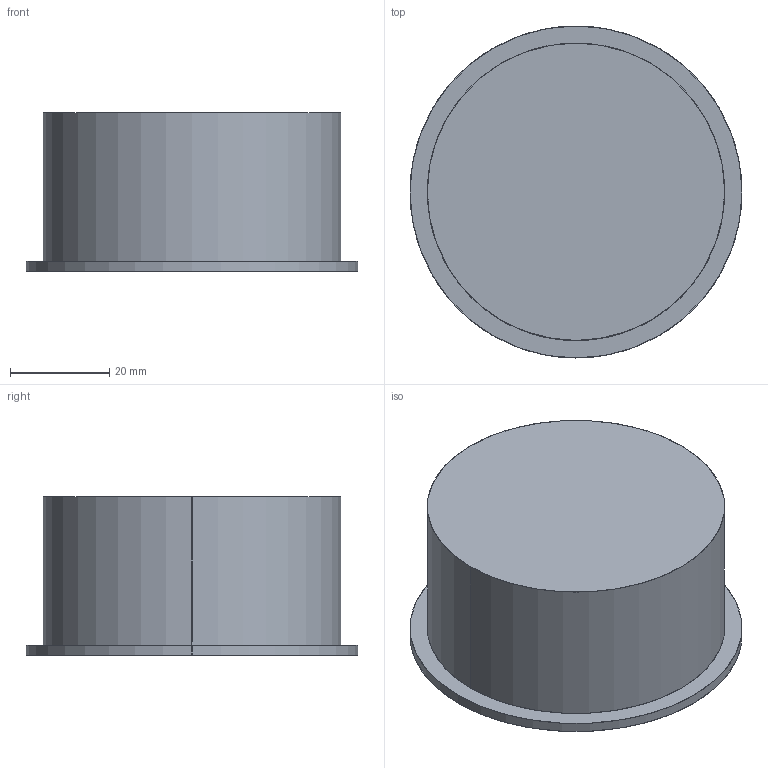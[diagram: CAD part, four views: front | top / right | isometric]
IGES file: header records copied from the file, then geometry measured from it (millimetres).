
Start section: SolidWorks IGES file using analytic representation for surfaces
Global section: file name: C:\Users\danielet\Desktop\3Ds\PAUL-A3578-3D\PAUL-A3578-3D.IGS; native system: SolidWorks 2018; preprocessor: SolidWorks 2018; author: danielet; date: 210728.095038; units: millimetre
Bounding box: 67 x 67 x 32 mm (x, y, z)
Surface area: 23098.1 mm2 (no closed solid volume)
Topology: 0 solids, 0 shells, 18 faces, 564 edges, 564 vertices
Faces by surface type: revolution 10, bspline 8
